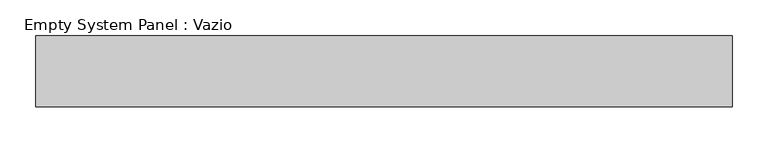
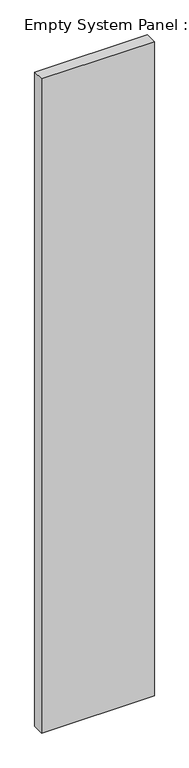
"""IFC4 building model written with IfcOpenShell, lengths in millimetres: plate geometry, Empty System Panel : Vazio."""

import ifcopenshell
import ifcopenshell.guid

model = None  # the IFC model being written
_history = None  # IfcOwnerHistory: only IFC2X3 demands one
_inside = {}  # id of a spatial element -> (the spatial element, [elements in it])
_under = {}  # id of a project, library or spatial element -> (it, [spatial elements below it])
_declared = {}  # id of a project -> (the project, [libraries it declares])
_typed = {}  # id of a type object -> (the type object, [elements of that type])
_made_of = {}  # id of a material, layer set ... -> (it, [elements and type objects made of it])


def new_model(schema):
    """Start an empty IFC model of exactly this schema.

    Asked for "IFC4X3", IfcOpenShell would pick the latest addendum, in which some entities
    have other attributes; the version numbers below select the first issue.
    IFC2X3 requires an IfcOwnerHistory on every rooted entity: one is made here for all.
    """
    global model, _history
    if schema == "IFC4X3":
        model = ifcopenshell.file(schema_version=(4, 3, 0, 0))
    else:
        model = ifcopenshell.file(schema=schema)
    _inside.clear()
    _under.clear()
    _declared.clear()
    _typed.clear()
    _made_of.clear()
    _history = None
    if model.schema == "IFC2X3":
        org = make("IfcOrganization", Name="unknown")
        user = make(
            "IfcPersonAndOrganization",
            ThePerson=make("IfcPerson", FamilyName="unknown"),
            TheOrganization=org,
        )
        app = make(
            "IfcApplication",
            ApplicationDeveloper=org,
            Version="unknown",
            ApplicationFullName="unknown",
            ApplicationIdentifier="unknown",
        )
        _history = make(
            "IfcOwnerHistory",
            OwningUser=user,
            OwningApplication=app,
            ChangeAction="ADDED",
            CreationDate=0,
        )
    return model


def make(cls, **values):
    """One entity of the class cls with the attributes given. An attribute that is None is left unset."""
    return model.create_entity(
        cls, **{name: value for name, value in values.items() if value is not None}
    )


def rooted(cls, **values):
    """An entity with a GlobalId (a new one), such as an element, a storey or a relation."""
    return make(cls, GlobalId=ifcopenshell.guid.new(), OwnerHistory=_history, **values)


def si_unit(unit_type, name, prefix=None):
    """IfcSIUnit, for example si_unit("LENGTHUNIT", "METRE", prefix="MILLI")."""
    return make("IfcSIUnit", UnitType=unit_type, Prefix=prefix, Name=name)


def assignment(units):
    """IfcUnitAssignment: the units of a project."""
    return None if units is None else make("IfcUnitAssignment", Units=units)


def point(xyz):
    """IfcCartesianPoint."""
    return None if xyz is None else make("IfcCartesianPoint", Coordinates=xyz)


def direction(xyz):
    """IfcDirection."""
    return None if xyz is None else make("IfcDirection", DirectionRatios=xyz)


def frame(location, z_axis=None, x_axis=None):
    """IfcAxis2Placement3D, a coordinate frame: its origin and axes. An axis left out is left unset."""
    return make(
        "IfcAxis2Placement3D",
        Location=point(location),
        Axis=direction(z_axis),
        RefDirection=direction(x_axis),
    )


def origin():
    """The frame at (0, 0, 0) with its axes left unset."""
    return frame((0.0, 0.0, 0.0))


def origin_with_axes():
    """The frame at (0, 0, 0) with the z axis (0, 0, 1) and the x axis (1, 0, 0) written out."""
    return frame((0.0, 0.0, 0.0), z_axis=(0.0, 0.0, 1.0), x_axis=(1.0, 0.0, 0.0))


def place(relative_to, where):
    """IfcLocalPlacement: puts the frame where relative to a parent placement (None: the world)."""
    return make(
        "IfcLocalPlacement", PlacementRelTo=relative_to, RelativePlacement=where
    )


def context(
    kind, dimensions, precision=None, world=None, true_north=None, identifier=None
):
    """IfcGeometricRepresentationContext, for example the 3D "Model" context."""
    return make(
        "IfcGeometricRepresentationContext",
        ContextIdentifier=identifier,
        ContextType=kind,
        CoordinateSpaceDimension=dimensions,
        Precision=precision,
        WorldCoordinateSystem=world,
        TrueNorth=true_north,
    )


def project(units=None, contexts=None):
    """IfcProject with its units and contexts."""
    return rooted(
        "IfcProject",
        Name="project",
        RepresentationContexts=contexts,
        UnitsInContext=assignment(units),
    )


def spatial(cls, under=None, at=None, **own):
    """A site, building, storey or space (cls), placed at a placement, below another one or the project."""
    s = rooted(cls, ObjectPlacement=at, **own)
    if under is not None:
        _under.setdefault(under.id(), (under, []))[1].append(s)
    return s


def polyline(points):
    """IfcPolyline through the points."""
    return make("IfcPolyline", Points=[point(p) for p in points])


def outline(outer, holes=None, kind="AREA"):
    """IfcArbitraryClosedProfileDef: a profile drawn as a closed curve; with holes, ...WithVoids."""
    if holes is None:
        return make("IfcArbitraryClosedProfileDef", ProfileType=kind, OuterCurve=outer)
    return make(
        "IfcArbitraryProfileDefWithVoids",
        ProfileType=kind,
        OuterCurve=outer,
        InnerCurves=holes,
    )


def extrude(swept, where, along, depth):
    """IfcExtrudedAreaSolid: the profile swept, set in the frame where, extruded along a direction by depth."""
    return make(
        "IfcExtrudedAreaSolid",
        SweptArea=swept,
        Position=where,
        ExtrudedDirection=direction(along),
        Depth=depth,
    )


def shape(context_of_items, identifier, shape_type, items):
    """IfcShapeRepresentation: the items that make up one representation, for example the "Body"."""
    return make(
        "IfcShapeRepresentation",
        ContextOfItems=context_of_items,
        RepresentationIdentifier=identifier,
        RepresentationType=shape_type,
        Items=items,
    )


def source(mapping_origin, context_of_items, identifier, shape_type, items):
    """IfcRepresentationMap: a shape defined once, which mapped items show again and again."""
    return make(
        "IfcRepresentationMap",
        MappingOrigin=mapping_origin,
        MappedRepresentation=shape(context_of_items, identifier, shape_type, items),
    )


def transform(
    local_origin,
    x_axis=None,
    y_axis=None,
    z_axis=None,
    scale=None,
    scale2=None,
    scale3=None,
    uniform=True,
):
    """IfcCartesianTransformationOperator3D, or its non-uniform kind. x_axis, y_axis, z_axis: its Axis1, 2, 3."""
    if uniform:
        return make(
            "IfcCartesianTransformationOperator3D",
            Axis1=direction(x_axis),
            Axis2=direction(y_axis),
            LocalOrigin=point(local_origin),
            Scale=scale,
            Axis3=direction(z_axis),
        )
    return make(
        "IfcCartesianTransformationOperator3DnonUniform",
        Axis1=direction(x_axis),
        Axis2=direction(y_axis),
        LocalOrigin=point(local_origin),
        Scale=scale,
        Axis3=direction(z_axis),
        Scale2=scale2,
        Scale3=scale3,
    )


def mapped(mapping_source, mapping_target):
    """IfcMappedItem: shows the shape of a source again, moved by a transform."""
    return make(
        "IfcMappedItem", MappingSource=mapping_source, MappingTarget=mapping_target
    )


def made_of(thing, what):
    """Note that an element or type object is made of a material, layer set ...; save() writes the relation."""
    if what is not None:
        _made_of.setdefault(what.id(), (what, []))[1].append(thing)
    return thing


def element(
    cls,
    number,
    at=None,
    inside=None,
    cuts=None,
    type_object=None,
    material=None,
    context=None,
    identifier="Body",
    shape_type=None,
    held_by="IfcProductDefinitionShape",
    body=None,
    shapes=None,
    **own,
):
    """One element of the class cls, such as IfcWall. Its Tag is "e" and its number.

    at: its placement. inside: the storey or other place that contains it. cuts: it is an
    opening in that element (IfcRelVoidsElement). A single representation is given by context,
    identifier, shape_type and body (its items); several are given by shapes. held_by: the class
    of the entity that holds the representations. save() writes the other relations.
    """
    e = rooted(cls, Tag="e%d" % number, ObjectPlacement=at, **own)
    if body is not None:
        shapes = [shape(context, identifier, shape_type, body)]
    if shapes is not None:
        e.Representation = make(held_by, Representations=shapes)
    if inside is not None:
        _inside.setdefault(inside.id(), (inside, []))[1].append(e)
    if cuts is not None:
        rooted(
            "IfcRelVoidsElement", RelatingBuildingElement=cuts, RelatedOpeningElement=e
        )
    if type_object is not None:
        _typed.setdefault(type_object.id(), (type_object, []))[1].append(e)
    return made_of(e, material)


def aggregate(whole, parts):
    """IfcRelAggregates: a whole, such as a stair, and the parts it consists of."""
    return rooted("IfcRelAggregates", RelatingObject=whole, RelatedObjects=parts)


def save(model, path):
    """Write the relations noted so far, then the file.

    IfcRelAggregates (storeys below a building ...), IfcRelContainedInSpatialStructure (elements
    in a storey), IfcRelDefinesByType, IfcRelAssociatesMaterial and IfcRelDeclares: one each for
    every whole, place, type object, material and project.
    """
    for whole, parts in _under.values():
        aggregate(whole, parts)
    for where, things in _inside.values():
        rooted(
            "IfcRelContainedInSpatialStructure",
            RelatedElements=things,
            RelatingStructure=where,
        )
    for kind, things in _typed.values():
        rooted("IfcRelDefinesByType", RelatedObjects=things, RelatingType=kind)
    for what, things in _made_of.values():
        rooted("IfcRelAssociatesMaterial", RelatedObjects=things, RelatingMaterial=what)
    for by, libraries in _declared.values():
        rooted("IfcRelDeclares", RelatingContext=by, RelatedDefinitions=libraries)
    model.write(path)


def empty_system_panel_vazio_ec835984(model_context):
    return source(origin(), model_context, "Body", "SweptSolid", [
        extrude(outline(polyline([(490.0, 50.0), (-490.0, 50.0), (-490.0, 150.0), (490.0, 150.0), (490.0, 50.0)])), origin_with_axes(), (0.0, 0.0, 1.0), 5999.7757458),
    ])


if __name__ == "__main__":
    model = new_model("IFC4")
    model_context = context("Model", 3, world=origin())
    ifc_project = project(units=[si_unit("LENGTHUNIT", "METRE", prefix="MILLI")], contexts=[model_context])
    site = spatial("IfcSite", under=ifc_project)
    building = spatial("IfcBuilding", under=site)
    placement = place(None, origin())
    empty_system_panel_vazio_shape = empty_system_panel_vazio_ec835984(model_context)
    element("IfcPlate", 1, ObjectType="Empty System Panel : Vazio", at=placement, inside=building, context=model_context, shape_type="MappedRepresentation", body=[
        mapped(empty_system_panel_vazio_shape, transform((0.0, 0.0, 0.0), x_axis=(1.0, 0.0, 0.0), y_axis=(0.0, 1.0, 0.0), z_axis=(0.0, 0.0, 1.0))),
    ])
    save(model, "model.ifc")
